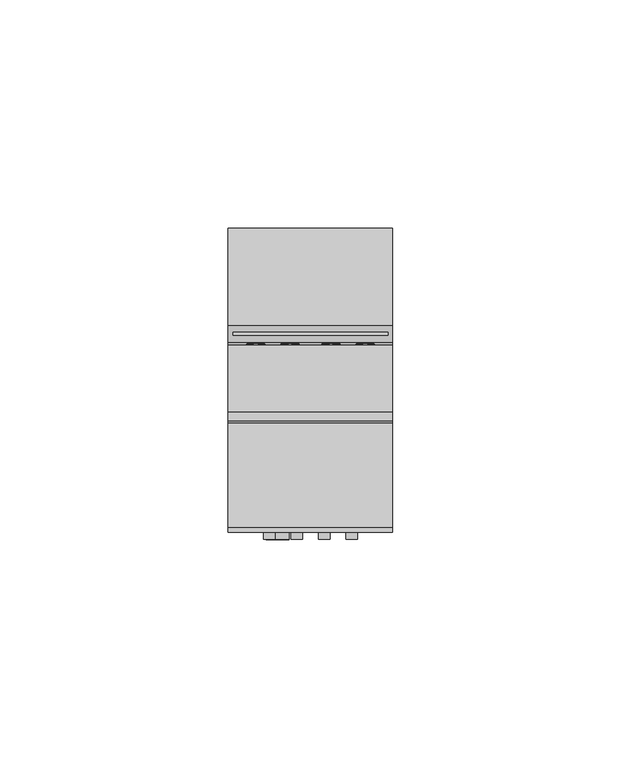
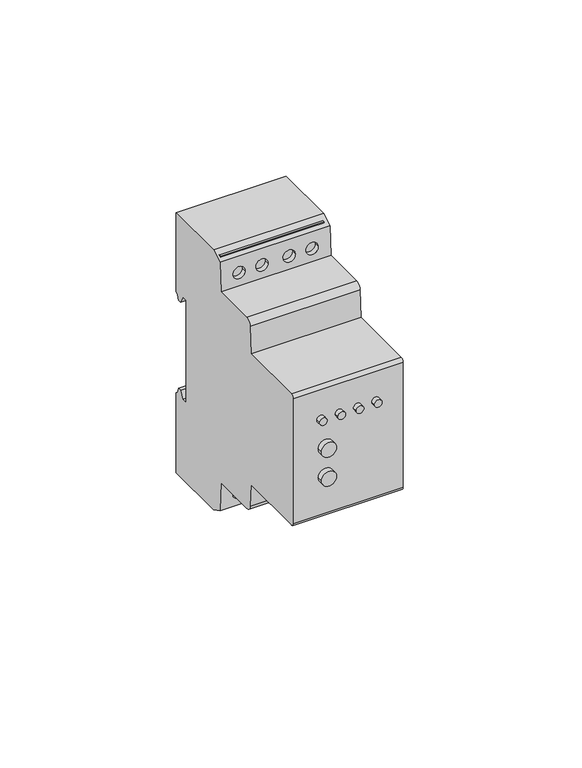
"""IFC4 building model written with IfcOpenShell, lengths in millimetres: proxy geometry, TDM_РЕЛЕ КОНТРОЛЯ НАПРЯЖЕНИЯ СЕРИИ РН 02_04_05_08_10_11 : РН 11-3х400/230 В."""

from ifc_helpers import new_model, si_unit, point, frame, frame_2d, origin, place, context, project, spatial, polyline, circle_curve, ellipse_curve, trimmed, segment, composite_curve, outline, extrude, source, transform, mapped, element, save
from ifc_brep_helpers import plane_surface, cylinder_surface, revolved_surface, advanced_brep


def electrical_equipment_77e1bf72(model_context):
    return source(origin(), model_context, "Body", "SolidModel", [
        extrude(outline(composite_curve([segment(trimmed(circle_curve(frame_2d((10.7391856, -3.0)), 1.25), [point((10.7391856, -4.25))], [point((10.7391856, -1.75))], False, "CARTESIAN"), True, "CONTINUOUS"), segment(trimmed(circle_curve(frame_2d((10.7391856, -3.0)), 1.25), [point((10.7391856, -1.75))], [point((10.7391856, -4.25))], False, "CARTESIAN"), True, "CONTINUOUS")], self_intersect=False)), frame((0.0, -30.5593993, 0.0), z_axis=(0.0, 1.0, 0.0), x_axis=(0.0, 0.0, 1.0)), (0.0, 0.0, 1.0), 1.5593993),
        extrude(outline(composite_curve([segment(trimmed(circle_curve(frame_2d((10.7391856, -9.0)), 1.25), [point((10.7391856, -10.25))], [point((10.7391856, -7.75))], False, "CARTESIAN"), True, "CONTINUOUS"), segment(trimmed(circle_curve(frame_2d((10.7391856, -9.0)), 1.25), [point((10.7391856, -7.75))], [point((10.7391856, -10.25))], False, "CARTESIAN"), True, "CONTINUOUS")], self_intersect=False)), frame((0.0, -30.5593993, 0.0), z_axis=(0.0, 1.0, 0.0), x_axis=(0.0, 0.0, 1.0)), (0.0, 0.0, 1.0), 1.5593993),
        extrude(outline(composite_curve([segment(trimmed(circle_curve(frame_2d((10.7391856, 3.0)), 1.25), [point((10.7391856, 4.25))], [point((10.7391856, 1.75))], False, "CARTESIAN"), True, "CONTINUOUS"), segment(trimmed(circle_curve(frame_2d((10.7391856, 3.0)), 1.25), [point((10.7391856, 1.75))], [point((10.7391856, 4.25))], False, "CARTESIAN"), True, "CONTINUOUS")], self_intersect=False)), frame((0.0, -30.5593993, 0.0), z_axis=(0.0, 1.0, 0.0), x_axis=(0.0, 0.0, 1.0)), (0.0, 0.0, 1.0), 1.5593993),
        extrude(outline(composite_curve([segment(trimmed(circle_curve(frame_2d((10.7391856, 9.0)), 1.25), [point((10.7391856, 10.25))], [point((10.7391856, 7.75))], False, "CARTESIAN"), True, "CONTINUOUS"), segment(trimmed(circle_curve(frame_2d((10.7391856, 9.0)), 1.25), [point((10.7391856, 7.75))], [point((10.7391856, 10.25))], False, "CARTESIAN"), True, "CONTINUOUS")], self_intersect=False)), frame((0.0, -30.5593993, 0.0), z_axis=(0.0, 1.0, 0.0), x_axis=(0.0, 0.0, 1.0)), (0.0, 0.0, 1.0), 1.5593993),
        extrude(outline(composite_curve([segment(trimmed(circle_curve(frame_2d((0.3743959, -7.1875)), 2.5), [point((0.3743959, -9.6875))], [point((0.3743959, -4.6875))], False, "CARTESIAN"), True, "CONTINUOUS"), segment(trimmed(circle_curve(frame_2d((0.3743959, -7.1875)), 2.5), [point((0.3743959, -4.6875))], [point((0.3743959, -9.6875))], False, "CARTESIAN"), True, "CONTINUOUS")], self_intersect=False)), frame((0.0, -30.5593993, 0.0), z_axis=(0.0, 1.0, 0.0), x_axis=(0.0, 0.0, 1.0)), (0.0, 0.0, 1.0), 3.0593993),
        extrude(outline(composite_curve([segment(trimmed(circle_curve(frame_2d((-9.6256041, -7.1875)), 2.5), [point((-9.6256041, -9.6875))], [point((-9.6256041, -4.6875))], False, "CARTESIAN"), True, "CONTINUOUS"), segment(trimmed(circle_curve(frame_2d((-9.6256041, -7.1875)), 2.5), [point((-9.6256041, -4.6875))], [point((-9.6256041, -9.6875))], False, "CARTESIAN"), True, "CONTINUOUS")], self_intersect=False)), frame((0.0, -30.5593993, 0.0), z_axis=(0.0, 1.0, 0.0), x_axis=(0.0, 0.0, 1.0)), (0.0, 0.0, 1.0), 3.0593993),
        extrude(outline(polyline([(17.0, 16.6821204), (17.0, 14.1138713), (-17.0, 14.1138713), (-17.0, 16.6821204), (17.0, 16.6821204)])), frame((0.0, 0.0, -44.0625), z_axis=(0.0, 0.0, 1.0), x_axis=(1.0, 0.0, 0.0)), (0.0, 0.0, 1.0), 87.8126081),
        advanced_brep(
        [(18.0, 31.7632568, 18.2057143), (18.0, 33.4745816, 18.2057143), (18.0, 35.0790621, 15.4266726), (18.0, 36.2042493, 15.4266726), (18.0, 36.5256071, 17.2491835), (18.0, 37.5, 17.8117495), (18.0, 37.5, 45.0), (18.0, 16.2660628, 45.0), (18.0, 12.5, 43.0), (18.0, 11.9790691, 33.0600462), (18.0, -2.6020709, 33.0600462), (18.0, -4.5993299, 31.1647181), (18.0, -5.0796325, 22.0), (18.0, -27.8777313, 22.0), (18.0, -29.0, 20.8777313), (18.0, -29.0, -22.3875602), (18.0, -27.8875602, -23.5), (18.0, -5.0010208, -23.5), (18.0, -4.5993299, -31.1647181), (18.0, -2.6020709, -33.0600462), (18.0, 11.9790691, -33.0600462), (18.0, 12.5, -43.0), (18.0, 16.2660628, -45.0), (18.0, 37.5, -45.0), (18.0, 37.5, -17.4003208), (18.0, 36.5256071, -16.8377548), (18.0, 36.2042493, -15.0152439), (18.0, 35.0790621, -15.0152439), (18.0, 33.7632568, -17.2942857), (18.0, 31.7632568, -17.2942857), (-18.0, 31.7632568, 18.2057143), (-18.0, 31.7632568, -17.2942857), (-18.0, 33.7632568, -17.2942857), (-18.0, 35.0790621, -15.0152439), (-18.0, 36.2042493, -15.0152439), (-18.0, 36.5256071, -16.8377548), (-18.0, 37.5, -17.4003208), (-18.0, 37.5, -45.0), (-18.0, 16.2660628, -45.0), (-18.0, 12.5, -43.0), (-18.0, 11.9790691, -33.0600462), (-18.0, -2.6020709, -33.0600462), (-18.0, -4.5993299, -31.1647181), (-18.0, -5.0010208, -23.5), (-18.0, -27.8875602, -23.5), (-18.0, -29.0, -22.3875602), (-18.0, -29.0, 20.8777313), (-18.0, -27.8777313, 22.0), (-18.0, -5.0796325, 22.0), (-18.0, -4.5993299, 31.1647181), (-18.0, -2.6020709, 33.0600462), (-18.0, 11.9790691, 33.0600462), (-18.0, 12.5, 43.0), (-18.0, 16.2660628, 45.0), (-18.0, 37.5, 45.0), (-18.0, 37.5, 17.8117495), (-18.0, 36.5256071, 17.2491835), (-18.0, 36.2042493, 15.4266726), (-18.0, 35.0790621, 15.4266726), (-18.0, 33.4745816, 18.2057143), (-6.4760987, 12.2085347, 37.4385116), (-2.4760987, 12.2085347, 37.4385116), (-13.9760987, 12.2085347, 37.4385116), (-9.9760987, 12.2085347, 37.4385116), (6.4760987, 12.2085347, 37.4385116), (2.4760987, 12.2085347, 37.4385116), (13.9760987, 12.2085347, 37.4385116), (9.9760987, 12.2085347, 37.4385116), (-6.4760987, 12.2740445, -38.6885116), (-2.4760987, 12.2740445, -38.6885116), (-13.9760987, 12.2740445, -38.6885116), (-9.9760987, 12.2740445, -38.6885116), (6.4760987, 12.2740445, -38.6885116), (2.4760987, 12.2740445, -38.6885116), (13.9760987, 12.2740445, -38.6885116), (9.9760987, 12.2740445, -38.6885116), (-2.4760987, 15.2465164, -38.6885116), (-6.4760987, 15.2465164, -38.6885116), (-2.4760987, 15.2465164, 37.4385116), (-6.4760987, 15.2465164, 37.4385116), (-9.9760987, 15.2465164, -38.6885116), (-13.9760987, 15.2465164, -38.6885116), (-9.9760987, 15.2465164, 37.4385116), (-13.9760987, 15.2465164, 37.4385116), (2.4760987, 15.2465164, -38.6885116), (6.4760987, 15.2465164, -38.6885116), (2.4760987, 15.2465164, 37.4385116), (6.4760987, 15.2465164, 37.4385116), (9.9760987, 15.2465164, -38.6885116), (13.9760987, 15.2465164, -38.6885116), (9.9760987, 15.2465164, 37.4385116), (13.9760987, 15.2465164, 37.4385116)],
        [
            (0, 1),
            (1, 2),
            (2, 3),
            (3, 4),
            (4, 5),
            (5, 6),
            (6, 7),
            (7, 8),
            (8, 9),
            (9, 10),
            (10, 11, circle_curve(frame((18.0, -2.6020709, 31.0600462), z_axis=(1.0, 0.0, 0.0), x_axis=(0.0, -1.0, 0.0)), 2.0)),
            (11, 12),
            (12, 13),
            (13, 14, circle_curve(frame((18.0, -27.8777313, 20.8777313), z_axis=(1.0, 0.0, 0.0), x_axis=(0.0, -1.0, 0.0)), 1.1222687)),
            (14, 15),
            (15, 16, circle_curve(frame((18.0, -27.8875602, -22.3875602), z_axis=(1.0, 0.0, 0.0), x_axis=(0.0, -1.0, 0.0)), 1.1124398)),
            (16, 17),
            (17, 18),
            (18, 19, circle_curve(frame((18.0, -2.6020709, -31.0600462), z_axis=(1.0, 0.0, 0.0), x_axis=(0.0, -1.0, 0.0)), 2.0)),
            (19, 20),
            (20, 21),
            (21, 22),
            (22, 23),
            (23, 24),
            (24, 25),
            (25, 26),
            (26, 27),
            (27, 28),
            (28, 29),
            (29, 0),
            (30, 31),
            (31, 32),
            (32, 33),
            (33, 34),
            (34, 35),
            (35, 36),
            (36, 37),
            (37, 38),
            (38, 39),
            (39, 40),
            (40, 41),
            (41, 42, circle_curve(frame((-18.0, -2.6020709, -31.0600462), z_axis=(-1.0, 0.0, 0.0), x_axis=(0.0, -1.0, 0.0)), 2.0)),
            (42, 43),
            (43, 44),
            (44, 45, circle_curve(frame((-18.0, -27.8875602, -22.3875602), z_axis=(-1.0, 0.0, 0.0), x_axis=(0.0, -1.0, 0.0)), 1.1124398)),
            (45, 46),
            (46, 47, circle_curve(frame((-18.0, -27.8777313, 20.8777313), z_axis=(-1.0, 0.0, 0.0), x_axis=(0.0, -1.0, 0.0)), 1.1222687)),
            (47, 48),
            (48, 49),
            (49, 50, circle_curve(frame((-18.0, -2.6020709, 31.0600462), z_axis=(-1.0, 0.0, 0.0), x_axis=(0.0, -1.0, 0.0)), 2.0)),
            (50, 51),
            (51, 52),
            (52, 53),
            (53, 54),
            (54, 55),
            (55, 56),
            (56, 57),
            (57, 58),
            (58, 59),
            (59, 30),
            (0, 30),
            (59, 1),
            (58, 2),
            (57, 3),
            (56, 4),
            (55, 5),
            (54, 6),
            (53, 7),
            (8, 52),
            (51, 9),
            (60, 61, ellipse_curve(frame((-4.4760987, 12.2085347, 37.4385116), z_axis=(0.0, 0.9986295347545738, -0.05233595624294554), x_axis=(0.0, -0.052335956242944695, -0.9986295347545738)), 2.0027447, 2.0)),
            (61, 60, ellipse_curve(frame((-4.4760987, 12.2085347, 37.4385116), z_axis=(0.0, 0.9986295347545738, -0.05233595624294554), x_axis=(0.0, -0.052335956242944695, -0.9986295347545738)), 2.0027447, 2.0)),
            (62, 63, ellipse_curve(frame((-11.9760987, 12.2085347, 37.4385116), z_axis=(0.0, 0.9986295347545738, -0.05233595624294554), x_axis=(0.0, -0.052335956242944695, -0.9986295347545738)), 2.0027447, 2.0)),
            (63, 62, ellipse_curve(frame((-11.9760987, 12.2085347, 37.4385116), z_axis=(0.0, 0.9986295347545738, -0.05233595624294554), x_axis=(0.0, -0.052335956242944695, -0.9986295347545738)), 2.0027447, 2.0)),
            (64, 65, ellipse_curve(frame((4.4760987, 12.2085347, 37.4385116), z_axis=(0.0, 0.9986295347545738, -0.05233595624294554), x_axis=(0.0, -0.052335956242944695, -0.9986295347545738)), 2.0027447, 2.0)),
            (65, 64, ellipse_curve(frame((4.4760987, 12.2085347, 37.4385116), z_axis=(0.0, 0.9986295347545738, -0.05233595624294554), x_axis=(0.0, -0.052335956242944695, -0.9986295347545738)), 2.0027447, 2.0)),
            (66, 67, ellipse_curve(frame((11.9760987, 12.2085347, 37.4385116), z_axis=(0.0, 0.9986295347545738, -0.05233595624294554), x_axis=(0.0, -0.052335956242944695, -0.9986295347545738)), 2.0027447, 2.0)),
            (67, 66, ellipse_curve(frame((11.9760987, 12.2085347, 37.4385116), z_axis=(0.0, 0.9986295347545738, -0.05233595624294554), x_axis=(0.0, -0.052335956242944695, -0.9986295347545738)), 2.0027447, 2.0)),
            (50, 10),
            (49, 11),
            (48, 12),
            (47, 13),
            (46, 14),
            (45, 15),
            (16, 44),
            (43, 17),
            (42, 18),
            (41, 19),
            (40, 20),
            (39, 21),
            (68, 69, ellipse_curve(frame((-4.4760987, 12.2740445, -38.6885116), z_axis=(0.0, 0.9986295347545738, 0.05233595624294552), x_axis=(0.0, -0.05233595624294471, 0.9986295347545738)), 2.0027447, 2.0)),
            (69, 68, ellipse_curve(frame((-4.4760987, 12.2740445, -38.6885116), z_axis=(0.0, 0.9986295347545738, 0.05233595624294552), x_axis=(0.0, -0.05233595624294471, 0.9986295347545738)), 2.0027447, 2.0)),
            (70, 71, ellipse_curve(frame((-11.9760987, 12.2740445, -38.6885116), z_axis=(0.0, 0.9986295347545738, 0.05233595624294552), x_axis=(0.0, -0.05233595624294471, 0.9986295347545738)), 2.0027447, 2.0)),
            (71, 70, ellipse_curve(frame((-11.9760987, 12.2740445, -38.6885116), z_axis=(0.0, 0.9986295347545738, 0.05233595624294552), x_axis=(0.0, -0.05233595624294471, 0.9986295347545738)), 2.0027447, 2.0)),
            (72, 73, ellipse_curve(frame((4.4760987, 12.2740445, -38.6885116), z_axis=(0.0, 0.9986295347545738, 0.05233595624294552), x_axis=(0.0, -0.05233595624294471, 0.9986295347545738)), 2.0027447, 2.0)),
            (73, 72, ellipse_curve(frame((4.4760987, 12.2740445, -38.6885116), z_axis=(0.0, 0.9986295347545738, 0.05233595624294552), x_axis=(0.0, -0.05233595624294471, 0.9986295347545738)), 2.0027447, 2.0)),
            (74, 75, ellipse_curve(frame((11.9760987, 12.2740445, -38.6885116), z_axis=(0.0, 0.9986295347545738, 0.05233595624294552), x_axis=(0.0, -0.05233595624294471, 0.9986295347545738)), 2.0027447, 2.0)),
            (75, 74, ellipse_curve(frame((11.9760987, 12.2740445, -38.6885116), z_axis=(0.0, 0.9986295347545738, 0.05233595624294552), x_axis=(0.0, -0.05233595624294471, 0.9986295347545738)), 2.0027447, 2.0)),
            (22, 38),
            (37, 23),
            (36, 24),
            (35, 25),
            (34, 26),
            (33, 27),
            (32, 28),
            (31, 29),
            (76, 77, circle_curve(frame((-4.4760987, 15.2465164, -38.6885116), z_axis=(0.0, -1.0, 0.0), x_axis=(-1.0, 0.0, 0.0)), 2.0)),
            (77, 76, circle_curve(frame((-4.4760987, 15.2465164, -38.6885116), z_axis=(0.0, -1.0, 0.0), x_axis=(-1.0, 0.0, 0.0)), 2.0)),
            (78, 79, circle_curve(frame((-4.4760987, 15.2465164, 37.4385116), z_axis=(0.0, -1.0, 0.0), x_axis=(-1.0, 0.0, 0.0)), 2.0)),
            (79, 78, circle_curve(frame((-4.4760987, 15.2465164, 37.4385116), z_axis=(0.0, -1.0, 0.0), x_axis=(-1.0, 0.0, 0.0)), 2.0)),
            (80, 81, circle_curve(frame((-11.9760987, 15.2465164, -38.6885116), z_axis=(0.0, -1.0, 0.0), x_axis=(-1.0, 0.0, 0.0)), 2.0)),
            (81, 80, circle_curve(frame((-11.9760987, 15.2465164, -38.6885116), z_axis=(0.0, -1.0, 0.0), x_axis=(-1.0, 0.0, 0.0)), 2.0)),
            (82, 83, circle_curve(frame((-11.9760987, 15.2465164, 37.4385116), z_axis=(0.0, -1.0, 0.0), x_axis=(-1.0, 0.0, 0.0)), 2.0)),
            (83, 82, circle_curve(frame((-11.9760987, 15.2465164, 37.4385116), z_axis=(0.0, -1.0, 0.0), x_axis=(-1.0, 0.0, 0.0)), 2.0)),
            (84, 85, circle_curve(frame((4.4760987, 15.2465164, -38.6885116), z_axis=(0.0, -1.0, 0.0), x_axis=(1.0, 0.0, 0.0)), 2.0)),
            (85, 84, circle_curve(frame((4.4760987, 15.2465164, -38.6885116), z_axis=(0.0, -1.0, 0.0), x_axis=(1.0, 0.0, 0.0)), 2.0)),
            (86, 87, circle_curve(frame((4.4760987, 15.2465164, 37.4385116), z_axis=(0.0, -1.0, 0.0), x_axis=(1.0, 0.0, 0.0)), 2.0)),
            (87, 86, circle_curve(frame((4.4760987, 15.2465164, 37.4385116), z_axis=(0.0, -1.0, 0.0), x_axis=(1.0, 0.0, 0.0)), 2.0)),
            (88, 89, circle_curve(frame((11.9760987, 15.2465164, -38.6885116), z_axis=(0.0, -1.0, 0.0), x_axis=(1.0, 0.0, 0.0)), 2.0)),
            (89, 88, circle_curve(frame((11.9760987, 15.2465164, -38.6885116), z_axis=(0.0, -1.0, 0.0), x_axis=(1.0, 0.0, 0.0)), 2.0)),
            (90, 91, circle_curve(frame((11.9760987, 15.2465164, 37.4385116), z_axis=(0.0, -1.0, 0.0), x_axis=(1.0, 0.0, 0.0)), 2.0)),
            (91, 90, circle_curve(frame((11.9760987, 15.2465164, 37.4385116), z_axis=(0.0, -1.0, 0.0), x_axis=(1.0, 0.0, 0.0)), 2.0)),
            (76, 69),
            (68, 77),
            (78, 61),
            (60, 79),
            (80, 71),
            (70, 81),
            (82, 63),
            (62, 83),
            (84, 73),
            (72, 85),
            (86, 65),
            (64, 87),
            (88, 75),
            (74, 89),
            (90, 67),
            (66, 91),
        ],
        [
            plane_surface(frame((18.0, 31.7632568, 18.2057143), z_axis=(1.0, 0.0, 0.0), x_axis=(0.0, 1.0, 0.0))),
            plane_surface(frame((-18.0, 31.7632568, 18.2057143), z_axis=(-1.0, 0.0, 0.0), x_axis=(0.0, -1.0, 0.0))),
            plane_surface(frame((18.0, 31.7632568, 18.2057143), z_axis=(0.0, 0.0, -1.0), x_axis=(-1.0, 0.0, 0.0))),
            plane_surface(frame((18.0, 33.4745816, 18.2057143), z_axis=(0.0, -0.8660254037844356, -0.5000000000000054), x_axis=(-1.0, 0.0, 0.0))),
            plane_surface(frame((18.0, 35.0790621, 15.4266726), z_axis=(0.0, 0.0, -1.0), x_axis=(-1.0, 0.0, 0.0))),
            plane_surface(frame((18.0, 36.2042493, 15.4266726), z_axis=(0.0, 0.984807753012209, -0.17364817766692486), x_axis=(-1.0, 0.0, 0.0))),
            plane_surface(frame((18.0, 36.5256071, 17.2491835), z_axis=(0.0, 0.5000000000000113, -0.8660254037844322), x_axis=(-1.0, 0.0, 0.0))),
            plane_surface(frame((18.0, 37.5, 17.8117495), z_axis=(0.0, 1.0, 0.0), x_axis=(-1.0, 0.0, 0.0))),
            plane_surface(frame((18.0, 37.5, 45.0), z_axis=(0.0, 0.0, 1.0), x_axis=(-1.0, 0.0, 0.0))),
            plane_surface(frame((18.0, 12.5, 43.0), z_axis=(0.0, -0.9986295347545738, 0.05233595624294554), x_axis=(-1.0, 0.0, 0.0))),
            plane_surface(frame((18.0, 11.9790691, 33.0600462), z_axis=(0.0, 0.0, 1.0), x_axis=(-1.0, 0.0, 0.0))),
            cylinder_surface(frame((-18.0, -2.6020709, 31.0600462), z_axis=(1.0, 0.0, 0.0), x_axis=(0.0, -1.0, 0.0)), 2.0),
            plane_surface(frame((18.0, -4.5993299, 31.1647181), z_axis=(0.0, -0.9986295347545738, 0.052335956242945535), x_axis=(-1.0, 0.0, 0.0))),
            plane_surface(frame((18.0, -5.0796325, 22.0), z_axis=(0.0, 0.0, 1.0), x_axis=(-1.0, 0.0, 0.0))),
            cylinder_surface(frame((-18.0, -27.8777313, 20.8777313), z_axis=(1.0, 0.0, 0.0), x_axis=(0.0, -1.0, 0.0)), 1.1222687),
            plane_surface(frame((18.0, -29.0, 20.8777313), z_axis=(0.0, -1.0, 0.0), x_axis=(-1.0, 0.0, 0.0))),
            plane_surface(frame((18.0, -27.8875602, -23.5), z_axis=(0.0, 0.0, -1.0), x_axis=(-1.0, 0.0, 0.0))),
            plane_surface(frame((18.0, -5.0010208, -23.5), z_axis=(0.0, -0.9986295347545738, -0.05233595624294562), x_axis=(-1.0, 0.0, 0.0))),
            cylinder_surface(frame((-18.0, -2.6020709, -31.0600462), z_axis=(1.0, 0.0, 0.0), x_axis=(0.0, -1.0, 0.0)), 2.0),
            plane_surface(frame((18.0, -2.6020709, -33.0600462), z_axis=(0.0, 0.0, -1.0), x_axis=(-1.0, 0.0, 0.0))),
            plane_surface(frame((18.0, 11.9790691, -33.0600462), z_axis=(0.0, -0.9986295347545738, -0.05233595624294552), x_axis=(-1.0, 0.0, 0.0))),
            plane_surface(frame((18.0, 16.2660628, -45.0), z_axis=(0.0, 0.0, -1.0), x_axis=(-1.0, 0.0, 0.0))),
            plane_surface(frame((18.0, 37.5, -45.0), z_axis=(0.0, 1.0, 0.0), x_axis=(-1.0, 0.0, 0.0))),
            plane_surface(frame((18.0, 37.5, -17.4003208), z_axis=(0.0, 0.5000000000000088, 0.8660254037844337), x_axis=(-1.0, 0.0, 0.0))),
            plane_surface(frame((18.0, 36.5256071, -16.8377548), z_axis=(0.0, 0.9848077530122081, 0.17364817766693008), x_axis=(-1.0, 0.0, 0.0))),
            plane_surface(frame((18.0, 36.2042493, -15.0152439), z_axis=(0.0, 0.0, 1.0), x_axis=(-1.0, 0.0, 0.0))),
            plane_surface(frame((18.0, 35.0790621, -15.0152439), z_axis=(0.0, -0.8660254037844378, 0.5000000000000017), x_axis=(-1.0, 0.0, 0.0))),
            plane_surface(frame((18.0, 33.7632568, -17.2942857), z_axis=(0.0, 0.0, 1.0), x_axis=(-1.0, 0.0, 0.0))),
            plane_surface(frame((18.0, 31.7632568, -17.2942857), z_axis=(0.0, 1.0, 0.0), x_axis=(-1.0, 0.0, 0.0))),
            cylinder_surface(frame((-18.0, -27.8875602, -22.3875602), z_axis=(1.0, 0.0, 0.0), x_axis=(0.0, -1.0, 0.0)), 1.1124398),
            plane_surface(frame((-6.4760987, 15.2465164, -38.6885116), z_axis=(0.0, -1.0, 0.0), x_axis=(0.0, 0.0, 1.0))),
            revolved_surface(polyline([(-6.4760987, 12.16922894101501, -38.6885116), (-6.4760987, 15.2465164, -38.6885116)]), (-4.4760987, 15.2465164, -38.6885116), (0.0, -1.0, 0.0)),
            revolved_surface(polyline([(-6.4760987, 12.10371914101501, 37.4385116), (-6.4760987, 15.2465164, 37.4385116)]), (-4.4760987, 0.0, 37.4385116), (0.0, -1.0, 0.0)),
            plane_surface(frame((18.0, 16.2660628, 45.0), z_axis=(0.0, -0.4690233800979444, 0.8831857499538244), x_axis=(-1.0, 0.0, 0.0))),
            plane_surface(frame((18.0, 12.5, -43.0), z_axis=(0.0, -0.4690233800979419, -0.8831857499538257), x_axis=(-1.0, 0.0, 0.0))),
            revolved_surface(polyline([(-13.9760987, 12.16922894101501, -38.6885116), (-13.9760987, 15.2465164, -38.6885116)]), (-11.9760987, 0.0, -38.6885116), (0.0, -1.0, 0.0)),
            revolved_surface(polyline([(-13.9760987, 12.10371914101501, 37.4385116), (-13.9760987, 15.2465164, 37.4385116)]), (-11.9760987, 0.0, 37.4385116), (0.0, -1.0, 0.0)),
            revolved_surface(polyline([(6.4760987, 12.16922894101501, -38.6885116), (6.4760987, 15.2465164, -38.6885116)]), (4.4760987, 0.0, -38.6885116), (0.0, -1.0, 0.0)),
            revolved_surface(polyline([(6.4760987, 12.10371914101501, 37.4385116), (6.4760987, 15.2465164, 37.4385116)]), (4.4760987, 0.0, 37.4385116), (0.0, -1.0, 0.0)),
            revolved_surface(polyline([(13.9760987, 12.16922894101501, -38.6885116), (13.9760987, 15.2465164, -38.6885116)]), (11.9760987, 0.0, -38.6885116), (0.0, -1.0, 0.0)),
            revolved_surface(polyline([(13.9760987, 12.10371914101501, 37.4385116), (13.9760987, 15.2465164, 37.4385116)]), (11.9760987, 0.0, 37.4385116), (0.0, -1.0, 0.0)),
        ],
        [
            (0, [[1, 2, 3, 4, 5, 6, 7, 8, 9, 10, 11, 12, 13, 14, 15, 16, 17, 18, 19, 20, 21, 22, 23, 24, 25, 26, 27, 28, 29, 30]]),
            (1, [[31, 32, 33, 34, 35, 36, 37, 38, 39, 40, 41, 42, 43, 44, 45, 46, 47, 48, 49, 50, 51, 52, 53, 54, 55, 56, 57, 58, 59, 60]]),
            (2, [[-1, 61, -60, 62]]),
            (3, [[-2, -62, -59, 63]]),
            (4, [[-3, -63, -58, 64]]),
            (5, [[-4, -64, -57, 65]]),
            (6, [[-5, -65, -56, 66]]),
            (7, [[-6, -66, -55, 67]]),
            (8, [[-7, -67, -54, 68]]),
            (9, [[-9, 69, -52, 70], [71, 72], [73, 74], [75, 76], [77, 78]]),
            (10, [[-10, -70, -51, 79]]),
            (11, [[-11, -79, -50, 80]]),
            (12, [[-12, -80, -49, 81]]),
            (13, [[-13, -81, -48, 82]]),
            (14, [[-14, -82, -47, 83]]),
            (15, [[-15, -83, -46, 84]]),
            (16, [[-17, 85, -44, 86]]),
            (17, [[-18, -86, -43, 87]]),
            (18, [[-19, -87, -42, 88]]),
            (19, [[-20, -88, -41, 89]]),
            (20, [[-21, -89, -40, 90], [91, 92], [93, 94], [95, 96], [97, 98]]),
            (21, [[-23, 99, -38, 100]]),
            (22, [[-24, -100, -37, 101]]),
            (23, [[-25, -101, -36, 102]]),
            (24, [[-26, -102, -35, 103]]),
            (25, [[-27, -103, -34, 104]]),
            (26, [[-28, -104, -33, 105]]),
            (27, [[-29, -105, -32, 106]]),
            (28, [[-30, -106, -31, -61]]),
            (29, [[-16, -84, -45, -85]]),
            (30, [[107, 108]]),
            (30, [[109, 110]]),
            (30, [[111, 112]]),
            (30, [[113, 114]]),
            (30, [[115, 116]]),
            (30, [[117, 118]]),
            (30, [[119, 120]]),
            (30, [[121, 122]]),
            (31, [[-107, 123, -91, 124]]),
            (31, [[-108, -124, -92, -123]]),
            (32, [[-109, 125, -71, 126]]),
            (32, [[-110, -126, -72, -125]]),
            (33, [[-8, -68, -53, -69]]),
            (34, [[-22, -90, -39, -99]]),
            (35, [[-111, 127, -93, 128]]),
            (35, [[-112, -128, -94, -127]]),
            (36, [[-113, 129, -73, 130]]),
            (36, [[-114, -130, -74, -129]]),
            (37, [[-115, 131, -95, 132]]),
            (37, [[-116, -132, -96, -131]]),
            (38, [[-117, 133, -75, 134]]),
            (38, [[-118, -134, -76, -133]]),
            (39, [[-119, 135, -97, 136]]),
            (39, [[-120, -136, -98, -135]]),
            (40, [[-121, 137, -77, 138]]),
            (40, [[-122, -138, -78, -137]]),
        ],
    ),
    ])


if __name__ == "__main__":
    model = new_model("IFC4")
    model_context = context("Model", 3, world=origin())
    ifc_project = project(units=[si_unit("LENGTHUNIT", "METRE", prefix="MILLI")], contexts=[model_context])
    site = spatial("IfcSite", under=ifc_project)
    building = spatial("IfcBuilding", under=site)
    placement = place(None, origin())
    electrical_equipment_shape = electrical_equipment_77e1bf72(model_context)
    element("IfcBuildingElementProxy", 1, Name="TDM_РЕЛЕ КОНТРОЛЯ НАПРЯЖЕНИЯ СЕРИИ РН 02_04_05_08_10_11 : РН 11-3х400/230 В", ObjectType="TDM_РЕЛЕ КОНТРОЛЯ НАПРЯЖЕНИЯ СЕРИИ РН 02_04_05_08_10_11 : РН 11-3х400/230 В", at=placement, inside=building, context=model_context, shape_type="MappedRepresentation", body=[
        mapped(electrical_equipment_shape, transform((0.0, 0.0, 0.0), x_axis=(1.0, 0.0, 0.0), y_axis=(0.0, 1.0, 0.0), z_axis=(0.0, 0.0, 1.0))),
    ])
    save(model, "model.ifc")
